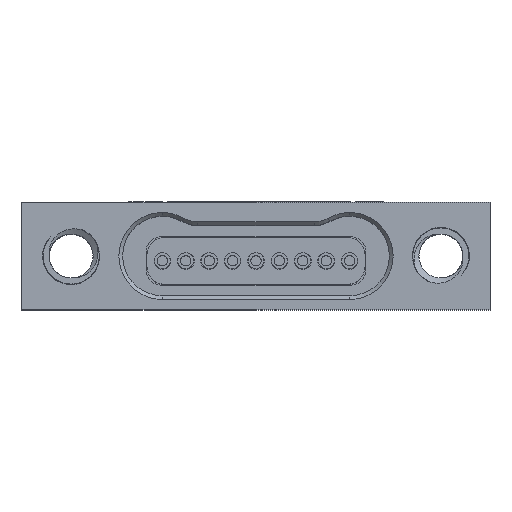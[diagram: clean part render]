
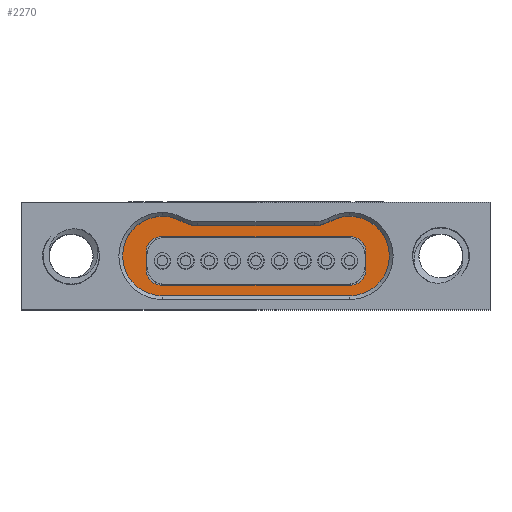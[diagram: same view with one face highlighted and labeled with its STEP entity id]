
A CAD part, top view. The second image highlights one B-rep face of the part: STEP entity #2270.
In plain terms, the highlighted planar face has unit normal (0, 0, 1).
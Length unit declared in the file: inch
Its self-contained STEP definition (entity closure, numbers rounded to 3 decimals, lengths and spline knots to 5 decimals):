
#292 = DIRECTION ( 'NONE',  ( 0., 1., 0. ) ) ;
#610 = CARTESIAN_POINT ( 'NONE',  ( 0.1175, 0.009, 0.115 ) ) ;
#636 = DIRECTION ( 'NONE',  ( 0., -1., 0. ) ) ;
#651 = ORIENTED_EDGE ( 'NONE', *, *, #15189, .T. ) ;
#875 = AXIS2_PLACEMENT_3D ( 'NONE', #19208, #9519, #15915 ) ;
#885 = DIRECTION ( 'NONE',  ( 1., 0., 0. ) ) ;
#1115 = CIRCLE ( 'NONE', #9648, 0.0425 ) ;
#1118 = CIRCLE ( 'NONE', #17031, 0.017 ) ;
#1753 = EDGE_LOOP ( 'NONE', ( #10306, #5581, #9437, #4897, #15439, #8977, #17044, #16713 ) ) ;
#1976 = DIRECTION ( 'NONE',  ( 0., 0., 1. ) ) ;
#2261 = CARTESIAN_POINT ( 'NONE',  ( 0.07906, 0.04198, 0.115 ) ) ;
#2266 = CARTESIAN_POINT ( 'NONE',  ( -0.1, 0.0475, 0.115 ) ) ;
#2270 = ADVANCED_FACE ( 'NONE', ( #18148, #3290 ), #7943, .T. ) ;
#2357 = DIRECTION ( 'NONE',  ( 0., 0., 1. ) ) ;
#3146 = EDGE_CURVE ( 'NONE', #18492, #7722, #18545, .T. ) ;
#3290 = FACE_OUTER_BOUND ( 'NONE', #6238, .T. ) ;
#3491 = LINE ( 'NONE', #8116, #15469 ) ;
#3506 = LINE ( 'NONE', #6122, #10535 ) ;
#3687 = VECTOR ( 'NONE', #6764, 39.37008 ) ;
#3705 = AXIS2_PLACEMENT_3D ( 'NONE', #9411, #14855, #14013 ) ;
#3753 = CARTESIAN_POINT ( 'NONE',  ( 0.1175, -0.009, 0.115 ) ) ;
#3876 = CARTESIAN_POINT ( 'NONE',  ( 0.1, 0.005, 0.115 ) ) ;
#3988 = VECTOR ( 'NONE', #10399, 39.37008 ) ;
#4236 = ORIENTED_EDGE ( 'NONE', *, *, #13179, .T. ) ;
#4897 = ORIENTED_EDGE ( 'NONE', *, *, #12947, .F. ) ;
#4917 = CARTESIAN_POINT ( 'NONE',  ( 0.1, 0.005, 0.115 ) ) ;
#5212 = EDGE_CURVE ( 'NONE', #10569, #14815, #1118, .T. ) ;
#5387 = VECTOR ( 'NONE', #15739, 39.37008 ) ;
#5581 = ORIENTED_EDGE ( 'NONE', *, *, #13044, .F. ) ;
#5736 = EDGE_CURVE ( 'NONE', #12349, #11302, #11074, .T. ) ;
#6122 = CARTESIAN_POINT ( 'NONE',  ( 0.1, -0.0375, 0.115 ) ) ;
#6238 = EDGE_LOOP ( 'NONE', ( #18563, #651, #16849, #17048, #4236, #6504, #16854, #6297 ) ) ;
#6297 = ORIENTED_EDGE ( 'NONE', *, *, #11312, .T. ) ;
#6504 = ORIENTED_EDGE ( 'NONE', *, *, #15566, .T. ) ;
#6568 = EDGE_CURVE ( 'NONE', #9641, #17823, #18511, .T. ) ;
#6601 = DIRECTION ( 'NONE',  ( 0., 1., 0. ) ) ;
#6741 = AXIS2_PLACEMENT_3D ( 'NONE', #6971, #16606, #6601 ) ;
#6764 = DIRECTION ( 'NONE',  ( 0., 1., 0. ) ) ;
#6922 = CARTESIAN_POINT ( 'NONE',  ( -0.1005, 0.026, 0.115 ) ) ;
#6971 = CARTESIAN_POINT ( 'NONE',  ( 0.1, 0.005, 0.115 ) ) ;
#7032 = CARTESIAN_POINT ( 'NONE',  ( 0.1005, 0.026, 0.115 ) ) ;
#7160 = VERTEX_POINT ( 'NONE', #7837 ) ;
#7252 = AXIS2_PLACEMENT_3D ( 'NONE', #4917, #1976, #15279 ) ;
#7342 = CARTESIAN_POINT ( 'NONE',  ( -0.1175, 0.005, 0.115 ) ) ;
#7343 = DIRECTION ( 'NONE',  ( 0., 0., 1. ) ) ;
#7722 = VERTEX_POINT ( 'NONE', #14290 ) ;
#7837 = CARTESIAN_POINT ( 'NONE',  ( -0.1175, -0.009, 0.115 ) ) ;
#7943 = PLANE ( 'NONE',  #7252 ) ;
#8003 = VERTEX_POINT ( 'NONE', #2261 ) ;
#8116 = CARTESIAN_POINT ( 'NONE',  ( 0.1, -0.026, 0.115 ) ) ;
#8129 = EDGE_CURVE ( 'NONE', #7160, #10524, #10577, .T. ) ;
#8274 = CARTESIAN_POINT ( 'NONE',  ( 0.1005, -0.009, 0.115 ) ) ;
#8279 = LINE ( 'NONE', #17274, #3687 ) ;
#8707 = DIRECTION ( 'NONE',  ( 0., -1., 0. ) ) ;
#8975 = AXIS2_PLACEMENT_3D ( 'NONE', #13712, #7343, #16239 ) ;
#8977 = ORIENTED_EDGE ( 'NONE', *, *, #18794, .F. ) ;
#9021 = VECTOR ( 'NONE', #8707, 39.37008 ) ;
#9093 = DIRECTION ( 'NONE',  ( 0., -1., 0. ) ) ;
#9162 = CARTESIAN_POINT ( 'NONE',  ( 0.06205, 0.0375, 0.115 ) ) ;
#9411 = CARTESIAN_POINT ( 'NONE',  ( -0.1, 0.005, 0.115 ) ) ;
#9432 = CIRCLE ( 'NONE', #6741, 0.0425 ) ;
#9437 = ORIENTED_EDGE ( 'NONE', *, *, #5736, .F. ) ;
#9519 = DIRECTION ( 'NONE',  ( 0., 0., -1. ) ) ;
#9641 = VERTEX_POINT ( 'NONE', #9162 ) ;
#9648 = AXIS2_PLACEMENT_3D ( 'NONE', #13065, #2357, #9093 ) ;
#9872 = DIRECTION ( 'NONE',  ( 0., 1., 0. ) ) ;
#10017 = DIRECTION ( 'NONE',  ( 0., 0., -1. ) ) ;
#10025 = EDGE_CURVE ( 'NONE', #8003, #9641, #16453, .T. ) ;
#10065 = CIRCLE ( 'NONE', #10558, 0.0425 ) ;
#10099 = DIRECTION ( 'NONE',  ( 0., 1., 0. ) ) ;
#10117 = CARTESIAN_POINT ( 'NONE',  ( 0.1, 0.026, 0.115 ) ) ;
#10306 = ORIENTED_EDGE ( 'NONE', *, *, #5212, .F. ) ;
#10399 = DIRECTION ( 'NONE',  ( -1., 0., 0. ) ) ;
#10524 = VERTEX_POINT ( 'NONE', #17561 ) ;
#10535 = VECTOR ( 'NONE', #885, 39.37008 ) ;
#10545 = CARTESIAN_POINT ( 'NONE',  ( -0.06205, 0.0375, 0.115 ) ) ;
#10558 = AXIS2_PLACEMENT_3D ( 'NONE', #3876, #12282, #9872 ) ;
#10569 = VERTEX_POINT ( 'NONE', #610 ) ;
#10577 = CIRCLE ( 'NONE', #11152, 0.017 ) ;
#10994 = VERTEX_POINT ( 'NONE', #11439 ) ;
#11074 = CIRCLE ( 'NONE', #15131, 0.017 ) ;
#11123 = CARTESIAN_POINT ( 'NONE',  ( -0.07906, 0.04198, 0.115 ) ) ;
#11152 = AXIS2_PLACEMENT_3D ( 'NONE', #15421, #18869, #10099 ) ;
#11302 = VERTEX_POINT ( 'NONE', #3753 ) ;
#11312 = EDGE_CURVE ( 'NONE', #18791, #10994, #3506, .T. ) ;
#11439 = CARTESIAN_POINT ( 'NONE',  ( 0.1, -0.0375, 0.115 ) ) ;
#12282 = DIRECTION ( 'NONE',  ( 0., 0., 1. ) ) ;
#12349 = VERTEX_POINT ( 'NONE', #16952 ) ;
#12650 = VERTEX_POINT ( 'NONE', #14067 ) ;
#12760 = DIRECTION ( 'NONE',  ( 0., 0., 1. ) ) ;
#12829 = DIRECTION ( 'NONE',  ( 0., 0., 1. ) ) ;
#12947 = EDGE_CURVE ( 'NONE', #10524, #12349, #3491, .T. ) ;
#13044 = EDGE_CURVE ( 'NONE', #11302, #10569, #8279, .T. ) ;
#13065 = CARTESIAN_POINT ( 'NONE',  ( -0.1, 0.005, 0.115 ) ) ;
#13179 = EDGE_CURVE ( 'NONE', #17823, #13660, #17803, .T. ) ;
#13660 = VERTEX_POINT ( 'NONE', #11123 ) ;
#13712 = CARTESIAN_POINT ( 'NONE',  ( -0.1005, 0.009, 0.115 ) ) ;
#14013 = DIRECTION ( 'NONE',  ( 0., -1., 0. ) ) ;
#14019 = AXIS2_PLACEMENT_3D ( 'NONE', #15642, #10017, #636 ) ;
#14061 = CARTESIAN_POINT ( 'NONE',  ( 0.1005, 0.009, 0.115 ) ) ;
#14067 = CARTESIAN_POINT ( 'NONE',  ( 0.1, 0.0475, 0.115 ) ) ;
#14290 = CARTESIAN_POINT ( 'NONE',  ( -0.1175, 0.009, 0.115 ) ) ;
#14634 = DIRECTION ( 'NONE',  ( 1., 0., 0. ) ) ;
#14815 = VERTEX_POINT ( 'NONE', #7032 ) ;
#14855 = DIRECTION ( 'NONE',  ( 0., 0., 1. ) ) ;
#14899 = CARTESIAN_POINT ( 'NONE',  ( 0.06205, 0.0375, 0.115 ) ) ;
#15131 = AXIS2_PLACEMENT_3D ( 'NONE', #8274, #12760, #292 ) ;
#15189 = EDGE_CURVE ( 'NONE', #12650, #8003, #10065, .T. ) ;
#15279 = DIRECTION ( 'NONE',  ( 0., 1., 0. ) ) ;
#15372 = EDGE_CURVE ( 'NONE', #18531, #18791, #1115, .T. ) ;
#15421 = CARTESIAN_POINT ( 'NONE',  ( -0.1005, -0.009, 0.115 ) ) ;
#15439 = ORIENTED_EDGE ( 'NONE', *, *, #8129, .F. ) ;
#15469 = VECTOR ( 'NONE', #14634, 39.37008 ) ;
#15566 = EDGE_CURVE ( 'NONE', #13660, #18531, #17387, .T. ) ;
#15642 = CARTESIAN_POINT ( 'NONE',  ( 0.06205, 0.072, 0.115 ) ) ;
#15739 = DIRECTION ( 'NONE',  ( -1., 0., 0. ) ) ;
#15891 = DIRECTION ( 'NONE',  ( 0., 1., 0. ) ) ;
#15915 = DIRECTION ( 'NONE',  ( 0., -1., 0. ) ) ;
#16012 = EDGE_CURVE ( 'NONE', #10994, #12650, #9432, .T. ) ;
#16239 = DIRECTION ( 'NONE',  ( 0., 1., 0. ) ) ;
#16453 = CIRCLE ( 'NONE', #14019, 0.0345 ) ;
#16567 = LINE ( 'NONE', #7342, #9021 ) ;
#16606 = DIRECTION ( 'NONE',  ( 0., 0., 1. ) ) ;
#16713 = ORIENTED_EDGE ( 'NONE', *, *, #17522, .F. ) ;
#16849 = ORIENTED_EDGE ( 'NONE', *, *, #10025, .T. ) ;
#16854 = ORIENTED_EDGE ( 'NONE', *, *, #15372, .T. ) ;
#16952 = CARTESIAN_POINT ( 'NONE',  ( 0.1005, -0.026, 0.115 ) ) ;
#17031 = AXIS2_PLACEMENT_3D ( 'NONE', #14061, #12829, #15891 ) ;
#17044 = ORIENTED_EDGE ( 'NONE', *, *, #3146, .F. ) ;
#17048 = ORIENTED_EDGE ( 'NONE', *, *, #6568, .T. ) ;
#17274 = CARTESIAN_POINT ( 'NONE',  ( 0.1175, 0.005, 0.115 ) ) ;
#17387 = CIRCLE ( 'NONE', #3705, 0.0425 ) ;
#17522 = EDGE_CURVE ( 'NONE', #14815, #18492, #18862, .T. ) ;
#17561 = CARTESIAN_POINT ( 'NONE',  ( -0.1005, -0.026, 0.115 ) ) ;
#17803 = CIRCLE ( 'NONE', #875, 0.0345 ) ;
#17823 = VERTEX_POINT ( 'NONE', #10545 ) ;
#18148 = FACE_BOUND ( 'NONE', #1753, .T. ) ;
#18361 = CARTESIAN_POINT ( 'NONE',  ( -0.1, -0.0375, 0.115 ) ) ;
#18492 = VERTEX_POINT ( 'NONE', #6922 ) ;
#18511 = LINE ( 'NONE', #14899, #5387 ) ;
#18531 = VERTEX_POINT ( 'NONE', #2266 ) ;
#18545 = CIRCLE ( 'NONE', #8975, 0.017 ) ;
#18563 = ORIENTED_EDGE ( 'NONE', *, *, #16012, .T. ) ;
#18791 = VERTEX_POINT ( 'NONE', #18361 ) ;
#18794 = EDGE_CURVE ( 'NONE', #7722, #7160, #16567, .T. ) ;
#18862 = LINE ( 'NONE', #10117, #3988 ) ;
#18869 = DIRECTION ( 'NONE',  ( 0., 0., 1. ) ) ;
#19208 = CARTESIAN_POINT ( 'NONE',  ( -0.06205, 0.072, 0.115 ) ) ;
